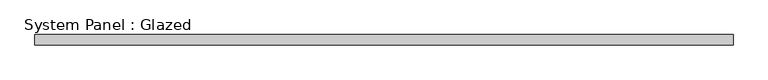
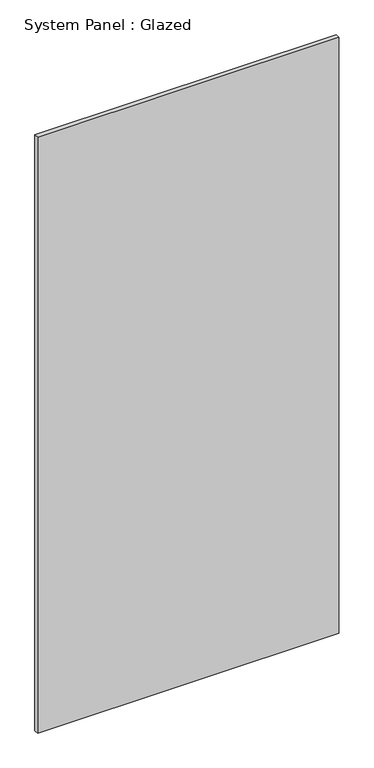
"""IFC4 building model written with IfcOpenShell, lengths in millimetres: plate geometry, System Panel : Glazed."""

from ifc_helpers import new_model, si_unit, origin, origin_with_axes, place, context, project, spatial, polyline, outline, extrude, source, transform, mapped, element, save


def system_panel_glazed_e9b7a680(model_context):
    return source(origin(), model_context, "Body", "SweptSolid", [
        extrude(outline(polyline([(851.2699153, 19.05), (-851.2699153, 19.05), (-851.2699153, 44.45), (851.2699153, 44.45), (851.2699153, 19.05)])), origin_with_axes(), (0.0, 0.0, 1.0), 3562.35),
    ])


if __name__ == "__main__":
    model = new_model("IFC4")
    model_context = context("Model", 3, world=origin())
    ifc_project = project(units=[si_unit("LENGTHUNIT", "METRE", prefix="MILLI")], contexts=[model_context])
    site = spatial("IfcSite", under=ifc_project)
    building = spatial("IfcBuilding", under=site)
    placement = place(None, origin())
    system_panel_glazed_shape = system_panel_glazed_e9b7a680(model_context)
    element("IfcPlate", 1, ObjectType="System Panel : Glazed", at=placement, inside=building, context=model_context, shape_type="MappedRepresentation", body=[
        mapped(system_panel_glazed_shape, transform((0.0, 0.0, 0.0), x_axis=(1.0, 0.0, 0.0), y_axis=(0.0, 1.0, 0.0), z_axis=(0.0, 0.0, 1.0))),
    ])
    save(model, "model.ifc")
